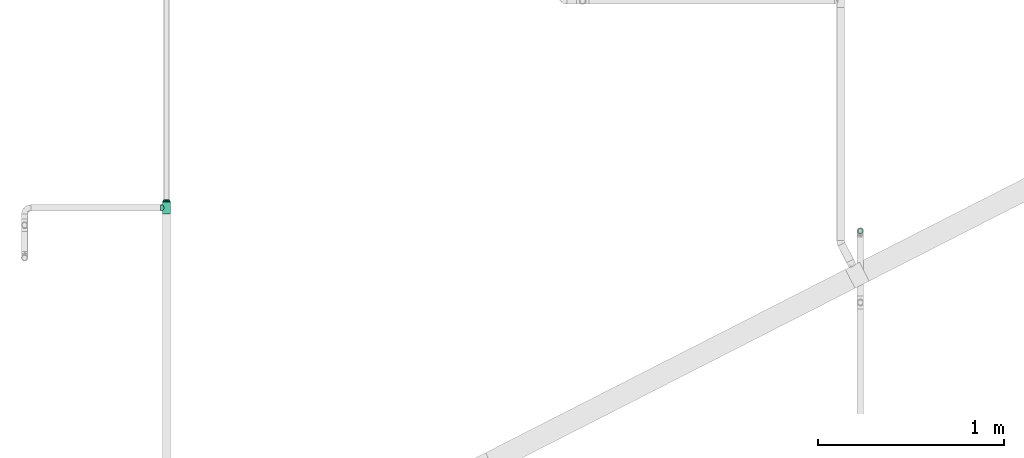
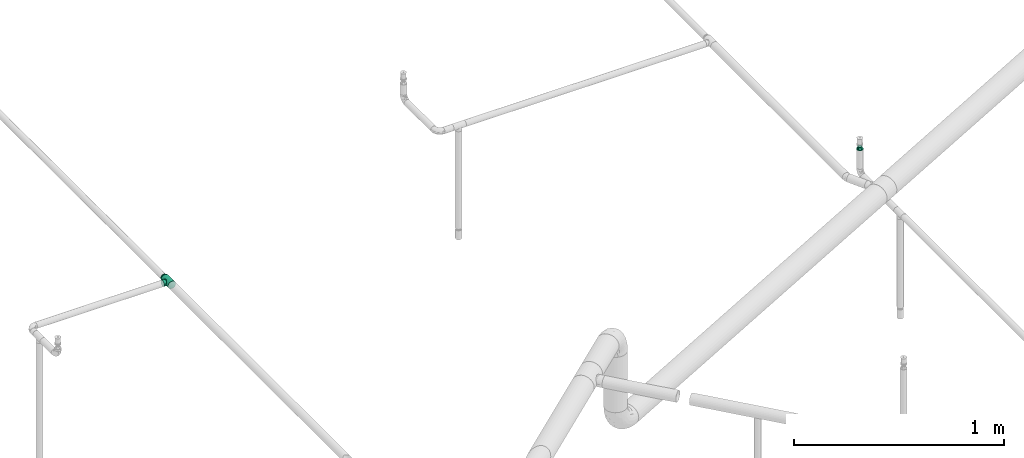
# One storey, part 74 of 94: 3 flow fittings.
"""IFC2X3 building model written with IfcOpenShell, lengths in millimetres."""

from ifc_helpers import new_model, entity, si_unit, converted_unit, derived_unit, direction, frame, origin_with_axes, place, context, subcontext, project, spatial, open_shell, surface_model, source, transform, mapped, type_object, element, save


model = new_model("IFC2X3")

# Units and contexts
model_context = context("Model", 3, precision=0.01, world=frame((0.0, 4.29681676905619e-09, 0.0)), true_north=direction((4.01073788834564e-13, 1.0)))
plan_context = context("Plan", 3, precision=0.01, world=frame((0.0, 4.29681676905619e-09, 0.0)), true_north=direction((4.01073788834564e-13, 1.0)))
body_context = subcontext(model_context, "Body", "Model", "MODEL_VIEW")
ifc_project = project(units=[converted_unit("PLANEANGLEUNIT", "DEGREE", entity("IfcPositiveLengthMeasure", 0.0174532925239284), si_unit("PLANEANGLEUNIT", "RADIAN"), dimensions=[0, 0, 0, 0, 0, 0, 0]), si_unit("AREAUNIT", "SQUARE_METRE"), si_unit("LENGTHUNIT", "METRE", prefix="MILLI"), si_unit("MASSUNIT", "GRAM", prefix="KILO"), si_unit("POWERUNIT", "WATT"), si_unit("PRESSUREUNIT", "PASCAL", prefix="KILO"), si_unit("FORCEUNIT", "NEWTON", prefix="KILO"), si_unit("ELECTRICVOLTAGEUNIT", "VOLT"), si_unit("ELECTRICCURRENTUNIT", "AMPERE"), si_unit("THERMODYNAMICTEMPERATUREUNIT", "DEGREE_CELSIUS"), si_unit("TIMEUNIT", "SECOND"), si_unit("VOLUMEUNIT", "CUBIC_METRE"), derived_unit("LINEARVELOCITYUNIT", [(si_unit("LENGTHUNIT", "METRE"), 1), (si_unit("TIMEUNIT", "SECOND"), -1)]), derived_unit("VOLUMETRICFLOWRATEUNIT", [(si_unit("VOLUMEUNIT", "CUBIC_METRE"), 1), (si_unit("TIMEUNIT", "SECOND"), -1)]), derived_unit("THERMALTRANSMITTANCEUNIT", [(si_unit("POWERUNIT", "WATT"), 1), (si_unit("THERMODYNAMICTEMPERATUREUNIT", "KELVIN"), -1), (si_unit("AREAUNIT", "SQUARE_METRE"), -1)]), derived_unit("SOUNDPRESSUREUNIT", [(si_unit("PRESSUREUNIT", "PASCAL"), 1)])], contexts=[model_context, plan_context])

# Site, building, storey
site_placement = place(None, frame((0.0, -4.29681676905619e-09, 0.0), z_axis=(0.0, 0.0, 1.0), x_axis=(1.0, 0.0, 0.0)))
site = spatial("IfcSite", under=ifc_project, at=site_placement, CompositionType="ELEMENT")
building_placement = place(site_placement, frame((0.0, 4.29681676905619e-09, 0.0), z_axis=(0.0, 0.0, 1.0), x_axis=(1.0, 0.0, 0.0)))
building = spatial("IfcBuilding", under=site, at=building_placement, Name="mc-building", CompositionType="ELEMENT")
storey_placement = place(building_placement, frame((0.0, 0.0, 210900.0), z_axis=(0.0, 0.0, 1.0), x_axis=(1.0, 0.0, 0.0)))
storey = spatial("IfcBuildingStorey", under=building, at=storey_placement, Name="Nivå F", CompositionType="ELEMENT", Elevation=210900.0)

# Flow fittings
pipe_fitting_type_1 = type_object("IfcPipeFittingType", Name="magi_pipe_fe_tee_centric_90_NOR", PredefinedType="JUNCTION")
shared_shape_1 = source(origin_with_axes(), body_context, "Body", "SurfaceModel", [
    surface_model("IfcShellBasedSurfaceModel", [(-33.8, 0.0, -21.2), (-33.8, -5.48696, -20.47763), (-33.8, 5.48696, -20.47763), (-33.8, 10.6, -18.35974), (-33.8, 14.99066, -14.99066), (-33.8, -20.47763, 5.48696), (-33.8, 18.35974, -10.6), (-33.8, 10.6, 18.35974), (-33.8, -14.99066, -14.99066), (-33.8, -18.35974, -10.6), (-33.8, -10.6, -18.35974), (-33.8, -20.47763, -5.48696), (-33.8, -21.2, 0.0), (-33.8, 18.35974, 10.6), (-33.8, 20.47763, -5.48696), (-33.8, 20.47763, 5.48696), (-33.8, 21.2, 0.0), (-33.8, 14.99066, 14.99066), (-33.8, 5.48696, 20.47763), (-33.8, 0.0, 21.2), (-33.8, -18.35974, 10.6), (-33.8, -14.99066, 14.99066), (-33.8, -10.6, 18.35974), (-33.8, -5.48696, 20.47763), (33.8, 5.48696, -20.47763), (33.8, -5.48696, -20.47763), (33.8, 0.0, -21.2), (33.8, 14.99066, -14.99066), (33.8, 10.6, -18.35974), (33.8, 18.35974, -10.6), (33.8, 20.47763, -5.48696), (33.8, -21.2, 0.0), (33.8, -10.6, -18.35974), (33.8, -18.35974, -10.6), (33.8, -14.99066, -14.99066), (33.8, -20.47763, -5.48696), (33.8, -20.47763, 5.48696), (33.8, 21.2, 0.0), (33.8, 20.47763, 5.48696), (33.8, 18.35974, 10.6), (33.8, 10.6, 18.35974), (33.8, 14.99066, 14.99066), (33.8, 0.0, 21.2), (33.8, 5.48696, 20.47763), (33.8, -14.99066, 14.99066), (33.8, -18.35974, 10.6), (33.8, -10.6, 18.35974), (33.8, -5.48696, 20.47763), (16.9, -21.2, 0.0), (15.78624, -20.32327, 6.03364), (12.81343, -18.11115, 11.01935), (8.52479, -15.37862, 14.59239), (3.07939, -13.16482, 16.61708), (-16.9, -21.2, 0.0), (-15.78686, -20.32375, 6.032), (-8.52604, -15.37932, 14.59166), (-3.0848, -13.16609, 16.61608), (-12.81602, -18.11299, 11.01634), (3.07939, -13.16482, -16.61708), (12.81343, -18.11115, -11.01935), (8.52479, -15.37862, -14.59239), (15.78624, -20.32327, -6.03364), (-3.0848, -13.16609, -16.61608), (-8.52604, -15.37932, -14.59166), (-12.81602, -18.11299, -11.01634), (-15.78686, -20.32375, -6.032), (4.37404, -31.8, -16.32415), (-16.9, -31.8, 0.0), (0.0, -31.8, -16.9), (14.63583, -31.8, -8.45), (8.45, -31.8, -14.63583), (16.32415, -31.8, -4.37404), (11.9501, -31.8, -11.9501), (-11.9501, -31.8, -11.9501), (-8.45, -31.8, -14.63583), (-4.37404, -31.8, -16.32415), (-14.63583, -31.8, -8.45), (-16.32415, -31.8, -4.37404), (16.9, -31.8, 0.0), (8.45, -31.8, 14.63583), (16.32415, -31.8, 4.37404), (14.63583, -31.8, 8.45), (-8.45, -31.8, 14.63583), (11.9501, -31.8, 11.9501), (4.37404, -31.8, 16.32415), (-16.32415, -31.8, 4.37404), (-11.9501, -31.8, 11.9501), (-14.63583, -31.8, 8.45), (0.0, -31.8, 16.9), (-4.37404, -31.8, 16.32415), (-16.34343, -20.76188, 3.016), (16.34312, -20.76163, 3.01682), (-0.00271, -13.16546, 16.61658), (16.34312, -20.76163, -3.01682), (-0.00271, -13.16546, -16.61658), (-16.34343, -20.76188, -3.016)], [open_shell([[[0, 1, 2]], [[3, 2, 4]], [[5, 2, 1]], [[4, 2, 6]], [[6, 2, 7]], [[8, 9, 10]], [[1, 10, 9]], [[9, 11, 1]], [[12, 1, 11]], [[5, 1, 12]], [[13, 14, 6]], [[13, 15, 16]], [[6, 7, 13]], [[5, 7, 2]], [[17, 13, 7]], [[18, 7, 19]], [[20, 21, 5]], [[22, 5, 21]], [[23, 19, 22]], [[7, 5, 22]], [[22, 19, 7]], [[16, 14, 13]], [[24, 25, 26]], [[27, 24, 28]], [[29, 30, 24]], [[29, 24, 27]], [[31, 24, 30]], [[32, 33, 34]], [[33, 32, 25]], [[33, 31, 35]], [[31, 33, 25]], [[25, 24, 31]], [[30, 36, 31]], [[37, 38, 39]], [[37, 39, 40]], [[37, 40, 36]], [[40, 39, 41]], [[42, 40, 43]], [[36, 44, 45]], [[44, 36, 46]], [[46, 42, 47]], [[46, 36, 40]], [[40, 42, 46]], [[37, 36, 30]], [[31, 36, 48]], [[49, 48, 36]], [[36, 45, 49]], [[45, 44, 50]], [[51, 50, 44]], [[52, 51, 44]], [[44, 46, 52]], [[45, 50, 49]], [[53, 54, 5]], [[5, 12, 53]], [[54, 20, 5]], [[55, 56, 21]], [[20, 57, 21]], [[57, 20, 54]], [[21, 57, 55]], [[56, 22, 21]], [[52, 22, 56]], [[19, 47, 42]], [[23, 46, 47]], [[18, 42, 43]], [[39, 38, 15]], [[17, 40, 41]], [[13, 41, 39]], [[43, 40, 7]], [[16, 38, 37]], [[22, 46, 23]], [[23, 47, 19]], [[18, 19, 42]], [[43, 7, 18]], [[7, 40, 17]], [[13, 17, 41]], [[15, 13, 39]], [[38, 16, 15]], [[46, 22, 52]], [[6, 30, 29]], [[14, 37, 30]], [[4, 29, 27]], [[26, 25, 1]], [[2, 28, 24]], [[0, 24, 26]], [[27, 28, 3]], [[10, 25, 32]], [[16, 37, 14]], [[14, 30, 6]], [[4, 6, 29]], [[27, 3, 4]], [[3, 28, 2]], [[0, 2, 24]], [[1, 0, 26]], [[25, 10, 1]], [[32, 58, 10]], [[34, 59, 60]], [[59, 34, 33]], [[60, 58, 34]], [[34, 58, 32]], [[35, 31, 48]], [[35, 61, 33]], [[61, 35, 48]], [[33, 61, 59]], [[62, 63, 8]], [[8, 64, 9]], [[64, 8, 63]], [[62, 8, 10]], [[65, 53, 11]], [[65, 11, 9]], [[11, 53, 12]], [[65, 9, 64]], [[58, 62, 10]], [[66, 67, 68]], [[69, 66, 70]], [[69, 71, 66]], [[69, 70, 72]], [[67, 66, 71]], [[68, 73, 74]], [[74, 75, 68]], [[76, 67, 77]], [[73, 68, 76]], [[67, 76, 68]], [[71, 78, 67]], [[79, 78, 80]], [[79, 80, 81]], [[82, 67, 79]], [[79, 81, 83]], [[82, 79, 84]], [[85, 86, 87]], [[86, 85, 82]], [[82, 88, 89]], [[85, 67, 82]], [[84, 88, 82]], [[79, 67, 78]], [[85, 90, 67]], [[57, 87, 86]], [[85, 87, 54]], [[86, 82, 55]], [[85, 54, 90]], [[90, 53, 67]], [[54, 87, 57]], [[91, 49, 80]], [[55, 89, 56]], [[55, 57, 86]], [[88, 52, 92]], [[55, 82, 89]], [[52, 88, 84]], [[79, 51, 84]], [[50, 83, 81]], [[83, 51, 79]], [[81, 80, 49]], [[83, 50, 51]], [[51, 52, 84]], [[78, 91, 80]], [[49, 50, 81]], [[91, 78, 48]], [[88, 56, 89]], [[92, 56, 88]], [[71, 93, 78]], [[59, 69, 72]], [[71, 69, 61]], [[72, 70, 60]], [[93, 48, 78]], [[61, 69, 59]], [[60, 66, 58]], [[60, 59, 72]], [[68, 62, 94]], [[60, 70, 66]], [[95, 67, 53]], [[95, 65, 77]], [[71, 61, 93]], [[75, 62, 68]], [[65, 76, 77]], [[73, 76, 64]], [[68, 58, 66]], [[75, 63, 62]], [[63, 75, 74]], [[74, 73, 63]], [[63, 73, 64]], [[64, 76, 65]], [[67, 95, 77]], [[94, 58, 68]]])]),
])
flow_fitting_1_placement = place(storey_placement, frame((716666.80992, 443760.1901, 4200.0), z_axis=(0.0, 0.0, 1.0), x_axis=(0.0, -1.0, 0.0)))
element("IfcFlowFitting", 1, at=flow_fitting_1_placement, inside=storey, type_object=pipe_fitting_type_1, Name="magi_pipe_fe_tee_centric_90_NOR", context=body_context, shape_type="MappedRepresentation", body=[
    mapped(shared_shape_1, transform((0.0, 0.0, 0.0), scale=1.0)),
])
pipe_fitting_type_2 = type_object("IfcPipeFittingType", Name="magi_pipe_fe_reducer_centric_short_NOR", PredefinedType="TRANSITION")
shared_shape_2 = source(origin_with_axes(), body_context, "Body", "SurfaceModel", [
    surface_model("IfcShellBasedSurfaceModel", [(-2.0, -10.6, -18.35974), (-2.0, 0.0, -21.2), (-2.0, -5.48696, -20.47763), (-2.0, 5.48696, -20.47763), (-2.0, 10.6, -18.35974), (8.6, -11.9501, -11.9501), (8.6, -11.9501, 11.9501), (8.6, -16.9, 0.0), (8.6, 11.9501, -11.9501), (8.6, 16.9, 0.0), (8.6, 0.0, -16.9), (0.0, 17.15116, 12.46105), (0.0, 6.55116, -20.1624), (0.0, -21.2, 0.0), (0.0, -6.55116, -20.1624), (0.0, -17.15116, -12.46105), (8.6, 2.98753, -15.66253), (0.0, 0.0, -20.1624), (0.0, -11.85116, -16.31172), (8.6, -2.98753, -15.66253), (8.6, 8.96258, -13.18758), (8.6, 5.97505, -14.42505), (0.0, 11.85116, -16.31172), (8.6, -5.97505, -14.42505), (8.6, -13.18758, -8.96258), (8.6, -8.96258, -13.18758), (0.0, -6.55116, 20.1624), (8.6, -2.98753, 15.66253), (0.0, 0.0, 20.1624), (8.6, 11.9501, 11.9501), (0.0, 11.85116, 16.31172), (8.6, 2.98753, 15.66253), (0.0, 6.55116, 20.1624), (8.6, -8.96258, 13.18758), (8.6, -5.97505, 14.42505), (0.0, -11.85116, 16.31172), (8.6, 5.97505, 14.42505), (8.6, 13.18758, 8.96258), (8.6, 8.96258, 13.18758), (10.6, 4.37404, -16.32415), (10.6, 8.45, -14.63583), (10.6, 11.9501, -11.9501), (10.6, -8.45, -14.63583), (10.6, 16.32415, -4.37404), (10.6, 16.32415, 4.37404), (10.6, 14.63583, -8.45), (10.6, 0.0, -16.9), (10.6, -4.37404, -16.32415), (10.6, -11.9501, -11.9501), (10.6, -16.32415, -4.37404), (10.6, -14.63583, -8.45), (10.6, -16.32415, 4.37404), (10.6, 16.9, 0.0), (10.6, 14.63583, 8.45), (10.6, 11.9501, 11.9501), (10.6, 4.37404, 16.32415), (10.6, 8.45, 14.63583), (10.6, 0.0, 16.9), (10.6, -14.63583, 8.45), (10.6, -16.9, 0.0), (10.6, -8.45, 14.63583), (10.6, -11.9501, 11.9501), (10.6, -4.37404, 16.32415), (8.6, 4.37404, 16.32415), (8.6, -14.63583, 8.45), (8.6, 0.0, 16.9), (8.6, 16.32415, 4.37404), (8.6, 8.45, 14.63583), (8.6, 14.63583, 8.45), (8.6, -8.45, 14.63583), (8.6, -4.37404, 16.32415), (8.6, -16.32415, 4.37404), (8.6, -16.32415, -4.37404), (8.6, -8.45, -14.63583), (8.6, 16.32415, -4.37404), (8.6, 14.63583, -8.45), (8.6, 8.45, -14.63583), (8.6, 4.37404, -16.32415), (8.6, -14.63583, -8.45), (8.6, -4.37404, -16.32415), (-2.0, 0.0, 21.2), (-2.0, 5.48696, 20.47763), (-2.0, 10.6, 18.35974), (-2.0, 14.99066, 14.99066), (-2.0, 18.35974, 10.6), (-2.0, 20.47763, 5.48696), (-2.0, -21.2, 0.0), (-2.0, -14.99066, -14.99066), (-2.0, -5.48696, 20.47763), (-2.0, -14.99066, 14.99066), (-2.0, -10.6, 18.35974), (-2.0, -18.35974, 10.6), (-2.0, -20.47763, 5.48696), (-2.0, 20.47763, -5.48696), (-2.0, 14.99066, -14.99066), (-2.0, 18.35974, -10.6), (-2.0, -18.35974, -10.6), (-2.0, -20.47763, -5.48696), (-2.0, 21.2, 0.0), (0.0, 10.6, -18.35974), (0.0, 0.0, -21.2), (0.0, 5.48696, -20.47763), (0.0, 20.47763, -5.48696), (0.0, 14.99066, -14.99066), (0.0, -14.99066, -14.99066), (0.0, 18.35974, -10.6), (0.0, -10.6, -18.35974), (0.0, -5.48696, -20.47763), (0.0, -18.35974, -10.6), (0.0, -20.47763, -5.48696), (0.0, -18.35974, 10.6), (0.0, 21.2, 0.0), (0.0, 20.47763, 5.48696), (0.0, 18.35974, 10.6), (0.0, 14.99066, 14.99066), (0.0, 0.0, 21.2), (0.0, 10.6, 18.35974), (0.0, 5.48696, 20.47763), (0.0, -14.99066, 14.99066), (0.0, -20.47763, 5.48696), (0.0, -5.48696, 20.47763), (0.0, -10.6, 18.35974), (0.0, -17.15116, 12.46105), (0.0, 17.15116, -12.46105), (0.0, 14.50116, -14.38638), (8.6, -14.42505, -5.97505), (0.0, -19.17558, -6.23052), (0.0, -18.16337, -9.34579), (8.6, 14.42505, -5.97505), (0.0, 19.17558, -6.23052), (8.6, 13.18758, -8.96258), (8.6, 15.66253, -2.98753), (8.6, -15.66253, -2.98753), (0.0, -14.50116, 14.38638), (8.6, 14.42505, 5.97505), (0.0, 19.17558, 6.23052), (0.0, 18.16337, 9.34579), (8.6, -14.42505, 5.97505), (0.0, -19.17558, 6.23052), (8.6, -13.18758, 8.96258), (8.6, -15.66253, 2.98753), (8.6, 15.66253, 2.98753)], [open_shell([[[0, 1, 2]], [[3, 1, 4]], [[5, 6, 7]], [[8, 9, 10]], [[11, 12, 13]], [[13, 12, 14]], [[13, 14, 15]], [[12, 16, 17]], [[5, 15, 18]], [[17, 19, 14]], [[20, 21, 22]], [[19, 23, 14]], [[12, 21, 16]], [[15, 5, 24]], [[25, 5, 18]], [[22, 8, 20]], [[26, 27, 28]], [[29, 11, 30]], [[28, 31, 32]], [[33, 34, 35]], [[31, 36, 32]], [[26, 34, 27]], [[11, 29, 37]], [[38, 29, 30]], [[35, 6, 33]], [[39, 40, 41]], [[42, 39, 41]], [[41, 43, 44]], [[43, 41, 45]], [[41, 44, 42]], [[46, 42, 47]], [[46, 39, 42]], [[48, 49, 50]], [[49, 48, 42]], [[42, 51, 49]], [[44, 43, 52]], [[44, 53, 54]], [[44, 54, 55]], [[55, 51, 42]], [[55, 54, 56]], [[51, 55, 57]], [[57, 58, 51]], [[59, 49, 51]], [[58, 60, 61]], [[58, 57, 60]], [[60, 57, 62]], [[42, 44, 55]], [[63, 64, 65]], [[66, 63, 67]], [[29, 68, 66]], [[29, 66, 67]], [[64, 63, 66]], [[69, 64, 6]], [[69, 70, 65]], [[65, 64, 69]], [[71, 64, 66]], [[71, 72, 7]], [[71, 66, 73]], [[66, 74, 8]], [[8, 74, 75]], [[8, 76, 77]], [[73, 66, 8]], [[77, 10, 8]], [[72, 5, 78]], [[5, 72, 73]], [[73, 10, 79]], [[72, 71, 73]], [[8, 10, 73]], [[74, 66, 9]], [[72, 49, 7]], [[78, 50, 72]], [[42, 5, 73]], [[78, 5, 48]], [[47, 73, 79]], [[72, 50, 49]], [[49, 59, 7]], [[47, 42, 73]], [[48, 5, 42]], [[48, 50, 78]], [[46, 47, 79]], [[79, 10, 46]], [[77, 39, 10]], [[76, 40, 77]], [[45, 8, 75]], [[76, 8, 41]], [[43, 75, 74]], [[76, 41, 40]], [[40, 39, 77]], [[52, 43, 74]], [[45, 75, 43]], [[45, 41, 8]], [[9, 52, 74]], [[10, 39, 46]], [[66, 44, 9]], [[68, 53, 66]], [[56, 29, 67]], [[68, 29, 54]], [[55, 67, 63]], [[66, 53, 44]], [[44, 52, 9]], [[55, 56, 67]], [[54, 29, 56]], [[54, 53, 68]], [[57, 55, 63]], [[63, 65, 57]], [[70, 62, 65]], [[69, 60, 70]], [[58, 6, 64]], [[69, 6, 61]], [[51, 64, 71]], [[69, 61, 60]], [[60, 62, 70]], [[59, 51, 71]], [[58, 64, 51]], [[58, 61, 6]], [[7, 59, 71]], [[65, 62, 57]], [[80, 81, 82]], [[80, 82, 83]], [[83, 84, 85]], [[83, 85, 80]], [[86, 80, 87]], [[88, 89, 90]], [[88, 80, 89]], [[91, 86, 92]], [[89, 80, 91]], [[80, 86, 91]], [[80, 85, 87]], [[85, 93, 4]], [[94, 93, 95]], [[87, 85, 4]], [[4, 93, 94]], [[86, 96, 97]], [[87, 96, 86]], [[0, 87, 4]], [[1, 0, 4]], [[93, 85, 98]], [[99, 100, 101]], [[102, 99, 103]], [[13, 104, 99]], [[102, 103, 105]], [[102, 13, 99]], [[100, 106, 107]], [[100, 99, 106]], [[108, 13, 109]], [[106, 99, 104]], [[108, 104, 13]], [[110, 102, 111]], [[112, 113, 114]], [[112, 114, 115]], [[116, 117, 115]], [[116, 115, 114]], [[112, 115, 118]], [[13, 110, 119]], [[102, 110, 13]], [[118, 120, 121]], [[110, 112, 118]], [[115, 120, 118]], [[110, 111, 112]], [[97, 109, 86]], [[96, 108, 97]], [[106, 87, 0]], [[96, 87, 104]], [[107, 0, 2]], [[97, 108, 109]], [[109, 13, 86]], [[107, 106, 0]], [[104, 87, 106]], [[104, 108, 96]], [[100, 107, 2]], [[2, 1, 100]], [[3, 101, 1]], [[4, 99, 3]], [[105, 94, 95]], [[4, 94, 103]], [[102, 95, 93]], [[4, 103, 99]], [[99, 101, 3]], [[111, 102, 93]], [[105, 95, 102]], [[105, 103, 94]], [[98, 111, 93]], [[1, 101, 100]], [[85, 112, 98]], [[84, 113, 85]], [[116, 83, 82]], [[84, 83, 114]], [[117, 82, 81]], [[85, 113, 112]], [[112, 111, 98]], [[117, 116, 82]], [[114, 83, 116]], [[114, 113, 84]], [[115, 117, 81]], [[81, 80, 115]], [[88, 120, 80]], [[90, 121, 88]], [[110, 89, 91]], [[90, 89, 118]], [[119, 91, 92]], [[90, 118, 121]], [[121, 120, 88]], [[13, 119, 92]], [[110, 91, 119]], [[110, 118, 89]], [[86, 13, 92]], [[80, 120, 115]], [[65, 6, 29]], [[9, 29, 6]], [[6, 10, 9]], [[10, 6, 5]], [[32, 11, 122]], [[32, 122, 26]], [[122, 11, 13]], [[12, 11, 123]], [[123, 11, 111]], [[8, 22, 124]], [[125, 126, 127]], [[22, 21, 12]], [[8, 124, 123]], [[128, 123, 129]], [[17, 16, 10]], [[123, 128, 130]], [[111, 131, 129]], [[13, 132, 7]], [[18, 23, 25]], [[13, 126, 132]], [[19, 17, 10]], [[131, 111, 9]], [[125, 132, 126]], [[15, 24, 127]], [[24, 125, 127]], [[8, 123, 130]], [[23, 18, 14]], [[131, 128, 129]], [[6, 35, 133]], [[134, 135, 136]], [[35, 34, 26]], [[6, 133, 122]], [[137, 122, 138]], [[28, 27, 65]], [[122, 137, 139]], [[13, 140, 138]], [[111, 141, 9]], [[30, 36, 38]], [[111, 135, 141]], [[31, 28, 65]], [[140, 13, 7]], [[134, 141, 135]], [[11, 37, 136]], [[37, 134, 136]], [[6, 122, 139]], [[36, 30, 32]], [[140, 137, 138]]])]),
])
flow_fitting_2_placement = place(storey_placement, frame((716666.80992, 443793.9901, 4200.0), z_axis=(0.0, 0.0, 1.0), x_axis=(0.0, 1.0, 0.0)))
element("IfcFlowFitting", 2, at=flow_fitting_2_placement, inside=storey, type_object=pipe_fitting_type_2, Name="magi_pipe_fe_reducer_centric_short_NOR", context=body_context, shape_type="MappedRepresentation", body=[
    mapped(shared_shape_2, transform((0.0, 0.0, 0.0), scale=1.0)),
])
shared_shape_3 = source(origin_with_axes(), body_context, "Body", "SurfaceModel", [
    surface_model("IfcShellBasedSurfaceModel", [(14.4, 5.35, -9.26647), (14.4, 0.0, -10.7), (14.4, 2.76936, -10.33541), (14.4, 10.33541, -2.76936), (14.4, 7.56604, -7.56604), (14.4, -10.33541, -2.76936), (14.4, 9.26647, -5.35), (14.4, 0.0, 10.7), (14.4, -5.35, -9.26647), (14.4, -2.76936, -10.33541), (14.4, -7.56604, -7.56604), (14.4, -9.26647, -5.35), (14.4, 10.7, 0.0), (14.4, 10.33541, 2.76936), (14.4, 9.26647, 5.35), (14.4, 7.56604, 7.56604), (14.4, 2.76936, 10.33541), (14.4, 5.35, 9.26647), (14.4, -10.33541, 2.76936), (14.4, -7.56604, 7.56604), (14.4, -9.26647, 5.35), (14.4, -10.7, 0.0), (14.4, -2.76936, 10.33541), (14.4, -5.35, 9.26647), (12.4, 2.76936, 10.33541), (12.4, -10.33541, -2.76936), (12.4, 0.0, 10.7), (12.4, 5.35, 9.26647), (12.4, 7.56604, 7.56604), (12.4, 9.26647, 5.35), (12.4, 10.33541, 2.76936), (12.4, -10.33541, 2.76936), (12.4, -2.76936, 10.33541), (12.4, -7.56604, 7.56604), (12.4, -5.35, 9.26647), (12.4, -9.26647, 5.35), (12.4, -10.7, 0.0), (12.4, 10.33541, -2.76936), (12.4, 5.35, -9.26647), (12.4, 9.26647, -5.35), (12.4, 7.56604, -7.56604), (12.4, 2.76936, -10.33541), (12.4, -9.26647, -5.35), (12.4, -5.35, -9.26647), (12.4, -7.56604, -7.56604), (12.4, 0.0, -10.7), (12.4, -2.76936, -10.33541), (12.4, 10.7, 0.0), (-2.0, 11.9501, 11.9501), (-2.0, 0.0, 16.9), (-2.0, 4.37404, 16.32415), (-2.0, 8.45, 14.63583), (-2.0, 14.63583, 8.45), (-2.0, 16.32415, 4.37404), (-2.0, -16.32415, 4.37404), (-2.0, -8.45, 14.63583), (-2.0, -14.63583, 8.45), (-2.0, -11.9501, 11.9501), (-2.0, -4.37404, 16.32415), (-2.0, -16.32415, -4.37404), (-2.0, -16.9, 0.0), (-2.0, -8.45, -14.63583), (-2.0, 16.32415, -4.37404), (-2.0, 11.9501, -11.9501), (-2.0, 14.63583, -8.45), (-2.0, 8.45, -14.63583), (-2.0, 4.37404, -16.32415), (-2.0, 0.0, -16.9), (-2.0, -11.9501, -11.9501), (-2.0, -14.63583, -8.45), (-2.0, -4.37404, -16.32415), (-2.0, 16.9, 0.0), (0.0, 4.37404, -16.32415), (0.0, 8.45, -14.63583), (0.0, 11.9501, -11.9501), (0.0, 0.0, -16.9), (0.0, 16.32415, -4.37404), (0.0, 16.32415, 4.37404), (0.0, 14.63583, -8.45), (0.0, -8.45, -14.63583), (0.0, -4.37404, -16.32415), (0.0, -11.9501, -11.9501), (0.0, -16.32415, -4.37404), (0.0, -14.63583, -8.45), (0.0, -16.32415, 4.37404), (0.0, 16.9, 0.0), (0.0, 14.63583, 8.45), (0.0, 11.9501, 11.9501), (0.0, 4.37404, 16.32415), (0.0, 8.45, 14.63583), (0.0, 0.0, 16.9), (0.0, -14.63583, 8.45), (0.0, -16.9, 0.0), (0.0, -8.45, 14.63583), (0.0, -11.9501, 11.9501), (0.0, -4.37404, 16.32415), (12.4, 9.3625, -2.31662), (0.0, 14.42505, -5.97505), (0.0, 15.66253, -2.98753), (12.4, -6.6875, -6.94985), (0.0, -13.18758, -8.96258), (0.0, 2.98753, -15.66253), (12.4, 0.0, -9.26647), (12.4, 6.6875, -6.94985), (0.0, 8.96258, -13.18758), (12.4, -9.3625, -2.31662), (0.0, -15.66253, -2.98753), (0.0, -14.42505, -5.97505), (0.0, 5.97505, -14.42505), (0.0, -2.98753, -15.66253), (0.0, -8.96258, -13.18758), (0.0, 13.18758, -8.96258), (12.4, 8.025, -4.63324), (12.4, -2.675, -9.26647), (12.4, 2.675, -9.26647), (0.0, -5.97505, -14.42505), (12.4, -8.025, -4.63324), (12.4, -9.3625, 2.31662), (0.0, -14.42505, 5.97505), (0.0, -15.66253, 2.98753), (12.4, 6.6875, 6.94985), (0.0, 13.18758, 8.96258), (0.0, -2.98753, 15.66253), (12.4, 0.0, 9.26647), (12.4, -6.6875, 6.94985), (0.0, -8.96258, 13.18758), (12.4, 9.3625, 2.31662), (0.0, 15.66253, 2.98753), (0.0, 14.42505, 5.97505), (0.0, -5.97505, 14.42505), (0.0, 2.98753, 15.66253), (0.0, 8.96258, 13.18758), (0.0, -13.18758, 8.96258), (12.4, -8.025, 4.63324), (12.4, 2.675, 9.26647), (12.4, -2.675, 9.26647), (0.0, 5.97505, 14.42505), (12.4, 8.025, 4.63324)], [open_shell([[[0, 1, 2]], [[3, 0, 4]], [[5, 0, 3]], [[3, 4, 6]], [[7, 5, 3]], [[1, 8, 9]], [[1, 0, 8]], [[10, 5, 11]], [[5, 10, 8]], [[0, 5, 8]], [[3, 12, 13]], [[13, 14, 15]], [[13, 15, 16]], [[7, 3, 16]], [[16, 15, 17]], [[7, 18, 5]], [[18, 19, 20]], [[21, 5, 18]], [[19, 22, 23]], [[22, 19, 18]], [[7, 22, 18]], [[13, 16, 3]], [[24, 25, 26]], [[27, 25, 24]], [[28, 29, 30]], [[28, 25, 27]], [[31, 26, 25]], [[32, 33, 34]], [[33, 32, 31]], [[33, 31, 35]], [[32, 26, 31]], [[31, 25, 36]], [[30, 37, 28]], [[25, 28, 37]], [[38, 37, 39]], [[37, 38, 25]], [[38, 39, 40]], [[41, 25, 38]], [[42, 43, 44]], [[43, 42, 25]], [[43, 45, 46]], [[43, 25, 41]], [[41, 45, 43]], [[37, 30, 47]], [[25, 5, 36]], [[42, 11, 25]], [[8, 44, 43]], [[42, 44, 10]], [[9, 43, 46]], [[25, 11, 5]], [[5, 21, 36]], [[9, 8, 43]], [[10, 44, 8]], [[10, 11, 42]], [[1, 9, 46]], [[46, 45, 1]], [[41, 2, 45]], [[38, 0, 41]], [[6, 40, 39]], [[38, 40, 4]], [[3, 39, 37]], [[38, 4, 0]], [[0, 2, 41]], [[12, 3, 37]], [[6, 39, 3]], [[6, 4, 40]], [[47, 12, 37]], [[45, 2, 1]], [[30, 13, 47]], [[29, 14, 30]], [[17, 28, 27]], [[29, 28, 15]], [[16, 27, 24]], [[30, 14, 13]], [[13, 12, 47]], [[16, 17, 27]], [[15, 28, 17]], [[15, 14, 29]], [[7, 16, 24]], [[24, 26, 7]], [[32, 22, 26]], [[34, 23, 32]], [[20, 33, 35]], [[34, 33, 19]], [[18, 35, 31]], [[34, 19, 23]], [[23, 22, 32]], [[21, 18, 31]], [[20, 35, 18]], [[20, 19, 33]], [[36, 21, 31]], [[26, 22, 7]], [[48, 49, 50]], [[48, 50, 51]], [[48, 52, 53]], [[48, 53, 49]], [[49, 53, 54]], [[55, 56, 57]], [[55, 58, 49]], [[56, 55, 49]], [[49, 54, 56]], [[54, 59, 60]], [[54, 53, 61]], [[53, 62, 63]], [[63, 62, 64]], [[63, 65, 66]], [[61, 53, 63]], [[67, 63, 66]], [[59, 68, 69]], [[68, 59, 61]], [[61, 67, 70]], [[59, 54, 61]], [[63, 67, 61]], [[53, 71, 62]], [[72, 73, 74]], [[75, 72, 74]], [[74, 76, 77]], [[76, 74, 78]], [[74, 77, 79]], [[75, 79, 80]], [[75, 74, 79]], [[81, 82, 83]], [[82, 81, 79]], [[79, 84, 82]], [[77, 76, 85]], [[77, 86, 87]], [[77, 87, 88]], [[88, 84, 79]], [[88, 87, 89]], [[84, 88, 90]], [[90, 91, 84]], [[92, 82, 84]], [[91, 93, 94]], [[91, 90, 93]], [[93, 90, 95]], [[79, 77, 88]], [[59, 82, 60]], [[69, 83, 59]], [[79, 68, 61]], [[69, 68, 81]], [[80, 61, 70]], [[59, 83, 82]], [[82, 92, 60]], [[80, 79, 61]], [[81, 68, 79]], [[81, 83, 69]], [[75, 80, 70]], [[70, 67, 75]], [[66, 72, 67]], [[65, 73, 66]], [[78, 63, 64]], [[65, 63, 74]], [[76, 64, 62]], [[65, 74, 73]], [[73, 72, 66]], [[85, 76, 62]], [[78, 64, 76]], [[78, 74, 63]], [[71, 85, 62]], [[67, 72, 75]], [[53, 77, 71]], [[52, 86, 53]], [[89, 48, 51]], [[52, 48, 87]], [[88, 51, 50]], [[53, 86, 77]], [[77, 85, 71]], [[88, 89, 51]], [[87, 48, 89]], [[87, 86, 52]], [[90, 88, 50]], [[50, 49, 90]], [[58, 95, 49]], [[55, 93, 58]], [[91, 57, 56]], [[55, 57, 94]], [[84, 56, 54]], [[55, 94, 93]], [[93, 95, 58]], [[92, 84, 54]], [[91, 56, 84]], [[91, 94, 57]], [[60, 92, 54]], [[49, 95, 90]], [[27, 34, 47]], [[47, 34, 43]], [[43, 38, 47]], [[43, 34, 36]], [[90, 87, 94]], [[92, 94, 87]], [[87, 74, 92]], [[75, 92, 74]], [[81, 92, 75]], [[74, 87, 85]], [[96, 97, 98]], [[81, 99, 100]], [[101, 102, 75]], [[98, 85, 47]], [[74, 103, 104]], [[104, 103, 38]], [[105, 106, 107]], [[38, 108, 104]], [[102, 109, 75]], [[110, 99, 81]], [[47, 96, 98]], [[103, 111, 112]], [[109, 102, 113]], [[36, 92, 106]], [[102, 101, 114]], [[110, 115, 43]], [[96, 112, 97]], [[107, 116, 105]], [[36, 106, 105]], [[113, 115, 109]], [[43, 115, 113]], [[116, 107, 100]], [[108, 38, 114]], [[111, 103, 74]], [[111, 97, 112]], [[99, 110, 43]], [[116, 100, 99]], [[101, 108, 114]], [[117, 118, 119]], [[87, 120, 121]], [[122, 123, 90]], [[119, 92, 36]], [[94, 124, 125]], [[125, 124, 34]], [[126, 127, 128]], [[34, 129, 125]], [[123, 130, 90]], [[131, 120, 87]], [[36, 117, 119]], [[124, 132, 133]], [[130, 123, 134]], [[47, 85, 127]], [[123, 122, 135]], [[131, 136, 27]], [[117, 133, 118]], [[128, 137, 126]], [[47, 127, 126]], [[134, 136, 130]], [[27, 136, 134]], [[137, 128, 121]], [[129, 34, 135]], [[132, 124, 94]], [[132, 118, 133]], [[120, 131, 27]], [[137, 121, 120]], [[122, 129, 135]]])]),
])
flow_fitting_3_placement = place(storey_placement, frame((720388.90308, 443636.12104, 3742.64799999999), z_axis=(-1.0, 0.0, 0.0), x_axis=(0.0, 0.0, 1.0)))
element("IfcFlowFitting", 3, at=flow_fitting_3_placement, inside=storey, type_object=pipe_fitting_type_2, Name="magi_pipe_fe_reducer_centric_short_NOR", context=body_context, shape_type="MappedRepresentation", body=[
    mapped(shared_shape_3, transform((0.0, 0.0, 0.0), scale=1.0)),
])

save(model, "model.ifc")
